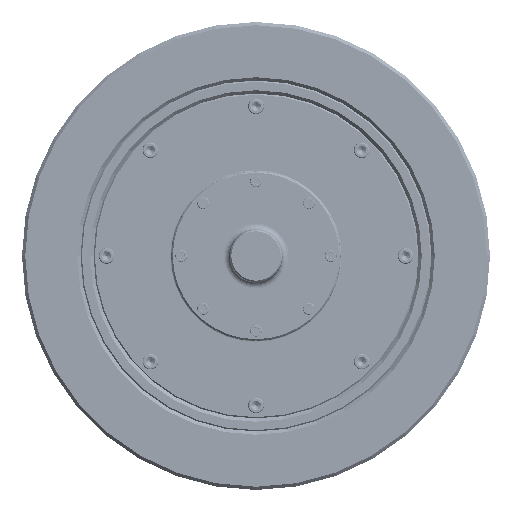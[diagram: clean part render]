
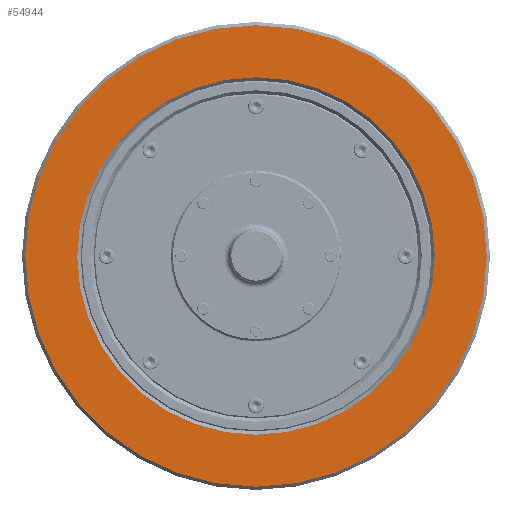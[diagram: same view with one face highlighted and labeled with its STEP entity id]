
A CAD part, left-side view. The second image highlights one B-rep face of the part: STEP entity #54944.
In plain terms, the highlighted planar face has unit normal (-1, 0, 0).
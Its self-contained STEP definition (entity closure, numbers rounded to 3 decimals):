
#3355=FACE_BOUND('',#16780,.T.);
#3944=PLANE('',#63935);
#13221=FACE_OUTER_BOUND('',#16779,.T.);
#16779=EDGE_LOOP('',(#51054));
#16780=EDGE_LOOP('',(#51055));
#21347=CIRCLE('',#63931,355.);
#21350=CIRCLE('',#63936,275.);
#26931=VERTEX_POINT('',#102524);
#26934=VERTEX_POINT('',#102534);
#35010=EDGE_CURVE('',#26931,#26931,#21347,.T.);
#35014=EDGE_CURVE('',#26934,#26934,#21350,.T.);
#51054=ORIENTED_EDGE('',*,*,#35010,.F.);
#51055=ORIENTED_EDGE('',*,*,#35014,.F.);
#54944=ADVANCED_FACE('',(#13221,#3355),#3944,.T.);
#63931=AXIS2_PLACEMENT_3D('',#102526,#81775,#81776);
#63935=AXIS2_PLACEMENT_3D('',#102533,#81784,#81785);
#63936=AXIS2_PLACEMENT_3D('',#102535,#81786,#81787);
#81775=DIRECTION('center_axis',(1.,0.,0.));
#81776=DIRECTION('ref_axis',(0.,-1.,0.));
#81784=DIRECTION('center_axis',(-1.,0.,0.));
#81785=DIRECTION('ref_axis',(0.,0.,1.));
#81786=DIRECTION('center_axis',(-1.,0.,0.));
#81787=DIRECTION('ref_axis',(0.,-1.,0.));
#102524=CARTESIAN_POINT('',(0.,355.,0.));
#102526=CARTESIAN_POINT('Origin',(0.,0.,0.));
#102533=CARTESIAN_POINT('Origin',(0.,360.,0.));
#102534=CARTESIAN_POINT('',(0.,275.,0.));
#102535=CARTESIAN_POINT('Origin',(0.,0.,0.));
